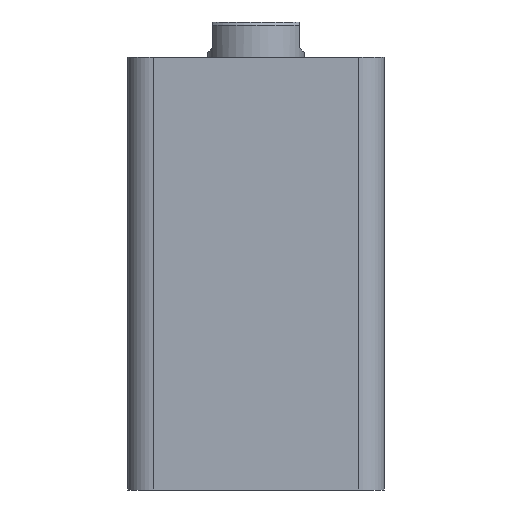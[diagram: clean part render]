
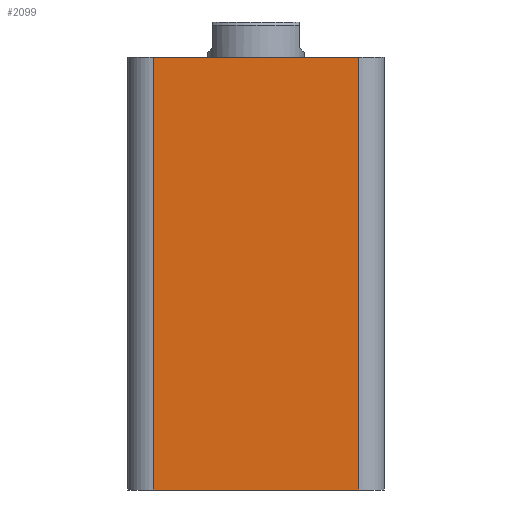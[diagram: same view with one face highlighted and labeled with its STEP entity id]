
A CAD part, front view. The second image highlights one B-rep face of the part: STEP entity #2099.
In plain terms, the highlighted planar face has unit normal (0, -1, 0).
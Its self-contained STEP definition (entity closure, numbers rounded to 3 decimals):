
#131 = VERTEX_POINT ( 'NONE', #2597 ) ;
#139 = VERTEX_POINT ( 'NONE', #2591 ) ;
#203 = EDGE_LOOP ( 'NONE', ( #566, #461, #2297, #2419 ) ) ;
#377 = VECTOR ( 'NONE', #677, 1000. ) ;
#380 = VECTOR ( 'NONE', #675, 1000. ) ;
#382 = LINE ( 'NONE', #679, #377 ) ;
#384 = VECTOR ( 'NONE', #681, 1000. ) ;
#386 = VECTOR ( 'NONE', #689, 1000. ) ;
#388 = LINE ( 'NONE', #688, #384 ) ;
#391 = LINE ( 'NONE', #694, #386 ) ;
#401 = LINE ( 'NONE', #771, #380 ) ;
#428 = VERTEX_POINT ( 'NONE', #2616 ) ;
#461 = ORIENTED_EDGE ( 'NONE', *, *, #1014, .T. ) ;
#478 = VERTEX_POINT ( 'NONE', #2514 ) ;
#566 = ORIENTED_EDGE ( 'NONE', *, *, #1013, .F. ) ;
#675 = DIRECTION ( 'NONE',  ( 1., 0., 0. ) ) ;
#677 = DIRECTION ( 'NONE',  ( 0., 0., 1. ) ) ;
#679 = CARTESIAN_POINT ( 'NONE',  ( 32., -40., 135. ) ) ;
#681 = DIRECTION ( 'NONE',  ( 0., 0., -1. ) ) ;
#688 = CARTESIAN_POINT ( 'NONE',  ( -32., -40., 135. ) ) ;
#689 = DIRECTION ( 'NONE',  ( 1., 0., 0. ) ) ;
#694 = CARTESIAN_POINT ( 'NONE',  ( -40., -40., 135. ) ) ;
#771 = CARTESIAN_POINT ( 'NONE',  ( -40., -40., 0. ) ) ;
#1013 = EDGE_CURVE ( 'NONE', #131, #428, #391, .T. ) ;
#1014 = EDGE_CURVE ( 'NONE', #131, #478, #388, .T. ) ;
#1015 = EDGE_CURVE ( 'NONE', #478, #139, #401, .T. ) ;
#1016 = EDGE_CURVE ( 'NONE', #139, #428, #382, .T. ) ;
#1276 = FACE_OUTER_BOUND ( 'NONE', #203, .T. ) ;
#1616 = AXIS2_PLACEMENT_3D ( 'NONE', #2170, #2161, #2160 ) ;
#2099 = ADVANCED_FACE ( 'NONE', ( #1276 ), #2164, .F. ) ;
#2160 = DIRECTION ( 'NONE',  ( 0., 0., 1. ) ) ;
#2161 = DIRECTION ( 'NONE',  ( 0., 1., 0. ) ) ;
#2164 = PLANE ( 'NONE',  #1616 ) ;
#2170 = CARTESIAN_POINT ( 'NONE',  ( -40., -40., 135. ) ) ;
#2297 = ORIENTED_EDGE ( 'NONE', *, *, #1015, .T. ) ;
#2419 = ORIENTED_EDGE ( 'NONE', *, *, #1016, .T. ) ;
#2514 = CARTESIAN_POINT ( 'NONE',  ( -32., -40., 0. ) ) ;
#2591 = CARTESIAN_POINT ( 'NONE',  ( 32., -40., 0. ) ) ;
#2597 = CARTESIAN_POINT ( 'NONE',  ( -32., -40., 135. ) ) ;
#2616 = CARTESIAN_POINT ( 'NONE',  ( 32., -40., 135. ) ) ;
